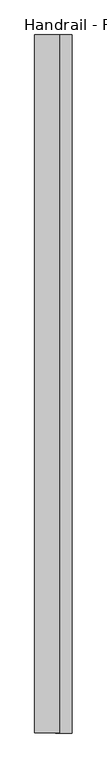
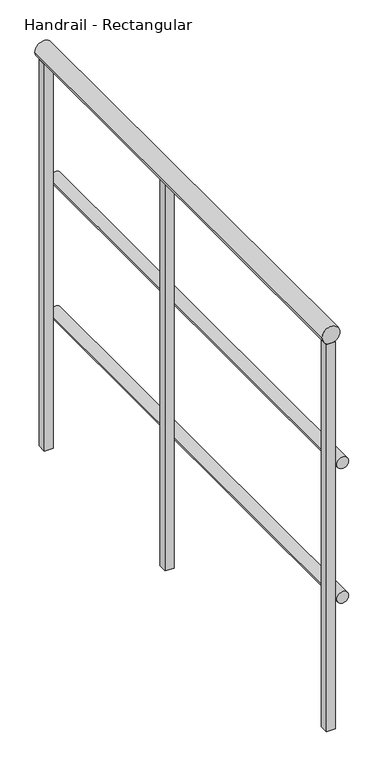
"""IFC4 building model written with IfcOpenShell, lengths in millimetres: railing geometry, Handrail - Rectangular."""

from ifc_helpers import new_model, si_unit, point, frame, frame_2d, origin, place, context, project, spatial, polyline, circle_curve, trimmed, segment, composite_curve, outline, extrude, source, transform, mapped, element, save


def handrail_rectangular_e16eda03(model_context):
    return source(origin(), model_context, "Body", "SweptSolid", [
        extrude(outline(composite_curve([segment(trimmed(circle_curve(frame_2d((9740.9, 2322.5410437)), 12.7), [point((9740.9, 2335.2410437))], [point((9740.9, 2309.8410437))], False, "CARTESIAN"), True, "CONTINUOUS"), segment(trimmed(circle_curve(frame_2d((9740.9, 2322.5410437)), 12.7), [point((9740.9, 2309.8410437))], [point((9740.9, 2335.2410437))], False, "CARTESIAN"), True, "CONTINUOUS")], self_intersect=False)), frame((0.0, -31539.9683133, 0.0), z_axis=(0.0, 1.0, 0.0), x_axis=(0.0, 0.0, 1.0)), (0.0, 0.0, 1.0), 1066.8),
        extrude(outline(composite_curve([segment(trimmed(circle_curve(frame_2d((9436.1, 2322.5410437)), 12.7), [point((9436.1, 2335.2410437))], [point((9436.1, 2309.8410437))], False, "CARTESIAN"), True, "CONTINUOUS"), segment(trimmed(circle_curve(frame_2d((9436.1, 2322.5410437)), 12.7), [point((9436.1, 2309.8410437))], [point((9436.1, 2335.2410437))], False, "CARTESIAN"), True, "CONTINUOUS")], self_intersect=False)), frame((0.0, -31539.9683133, 0.0), z_axis=(0.0, 1.0, 0.0), x_axis=(0.0, 0.0, 1.0)), (0.0, 0.0, 1.0), 1066.8),
        extrude(outline(composite_curve([segment(trimmed(circle_curve(frame_2d((10039.35, 2297.1410437)), 19.05), [point((10039.35, 2316.1910437))], [point((10039.35, 2278.0910437))], False, "CARTESIAN"), True, "CONTINUOUS"), segment(trimmed(circle_curve(frame_2d((10039.35, 2297.1410437)), 19.05), [point((10039.35, 2278.0910437))], [point((10039.35, 2316.1910437))], False, "CARTESIAN"), True, "CONTINUOUS")], self_intersect=False)), frame((0.0, -31539.9683133, 0.0), z_axis=(0.0, 1.0, 0.0), x_axis=(0.0, 0.0, 1.0)), (0.0, 0.0, 1.0), 1066.8),
        extrude(outline(polyline([(2287.6160437, -30939.8933133), (2287.6160437, -30920.8433133), (2306.6660437, -30920.8433133), (2306.6660437, -30939.8933133), (2287.6160437, -30939.8933133)])), frame((0.0, 0.0, 9144.0), z_axis=(0.0, 0.0, 1.0), x_axis=(1.0, 0.0, 0.0)), (0.0, 0.0, 1.0), 876.3),
        extrude(outline(polyline([(2287.6160437, -30492.2183133), (2287.6160437, -30473.1683133), (2306.6660437, -30473.1683133), (2306.6660437, -30492.2183133), (2287.6160437, -30492.2183133)])), frame((0.0, 0.0, 9144.0), z_axis=(0.0, 0.0, 1.0), x_axis=(1.0, 0.0, 0.0)), (0.0, 0.0, 1.0), 876.3),
        extrude(outline(polyline([(2287.6160437, -31539.9683133), (2287.6160437, -31520.9183133), (2306.6660437, -31520.9183133), (2306.6660437, -31539.9683133), (2287.6160437, -31539.9683133)])), frame((0.0, 0.0, 9144.0), z_axis=(0.0, 0.0, 1.0), x_axis=(1.0, 0.0, 0.0)), (0.0, 0.0, 1.0), 876.3),
    ])


if __name__ == "__main__":
    model = new_model("IFC4")
    model_context = context("Model", 3, world=origin())
    ifc_project = project(units=[si_unit("LENGTHUNIT", "METRE", prefix="MILLI")], contexts=[model_context])
    site = spatial("IfcSite", under=ifc_project)
    building = spatial("IfcBuilding", under=site)
    placement = place(None, origin())
    handrail_rectangular_shape = handrail_rectangular_e16eda03(model_context)
    element("IfcRailing", 1, ObjectType="Handrail - Rectangular", at=placement, inside=building, context=model_context, shape_type="MappedRepresentation", body=[
        mapped(handrail_rectangular_shape, transform((0.0, 0.0, 0.0), x_axis=(1.0, 0.0, 0.0), y_axis=(0.0, 1.0, 0.0), z_axis=(0.0, 0.0, 1.0))),
    ])
    save(model, "model.ifc")
